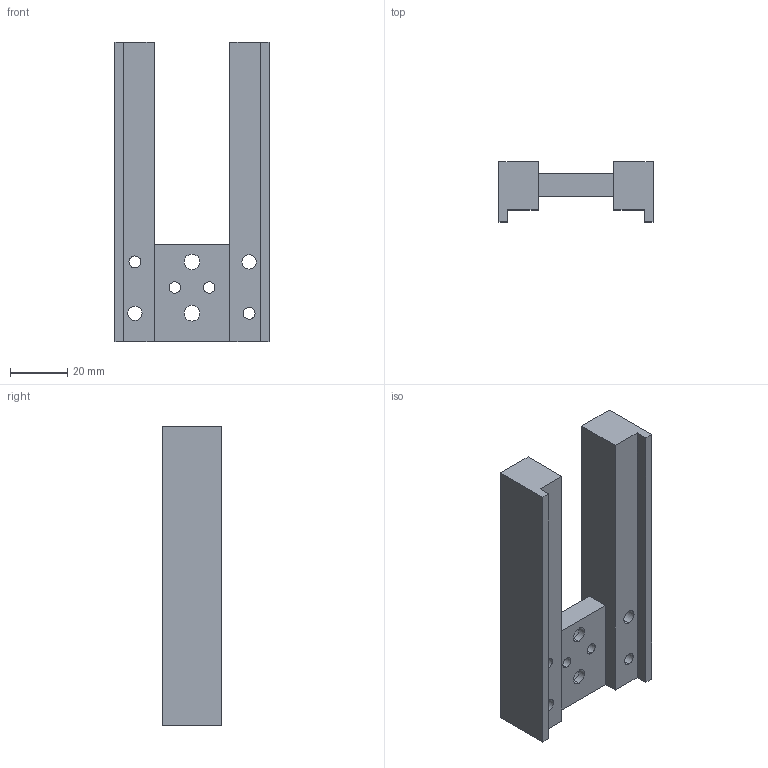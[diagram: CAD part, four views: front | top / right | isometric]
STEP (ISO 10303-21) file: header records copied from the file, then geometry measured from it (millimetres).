
FILE_DESCRIPTION (( 'STEP AP203' ), '1' );
FILE_NAME ('PPE32-P2.step', '2017-02-15T12:25:39', ( '' ), ( '' ), 'SwSTEP 2.0', 'SolidWorks 2012', '' );
FILE_SCHEMA (( 'CONFIG_CONTROL_DESIGN' ));
Length unit declared in the file: millimetre
Products named in the file (1): PPE32-P2
Bounding box: 54 x 21 x 105 mm (x, y, z)
Volume: 55906.5 mm3; surface area: 18569.1 mm2
Topology: 1 solids, 1 shells, 40 faces, 108 edges, 72 vertices
Faces by surface type: cylinder 20, plane 20
Entity records: 1381 total; most frequent: DIRECTION 230, CARTESIAN_POINT 221, ORIENTED_EDGE 216, EDGE_CURVE 108, AXIS2_PLACEMENT_3D 81, VERTEX_POINT 72, LINE 68, VECTOR 68
